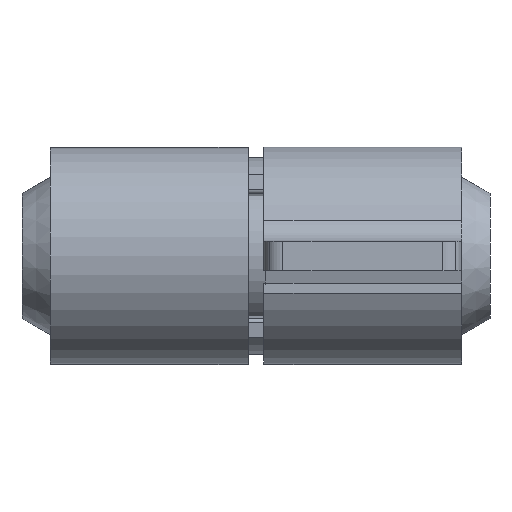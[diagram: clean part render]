
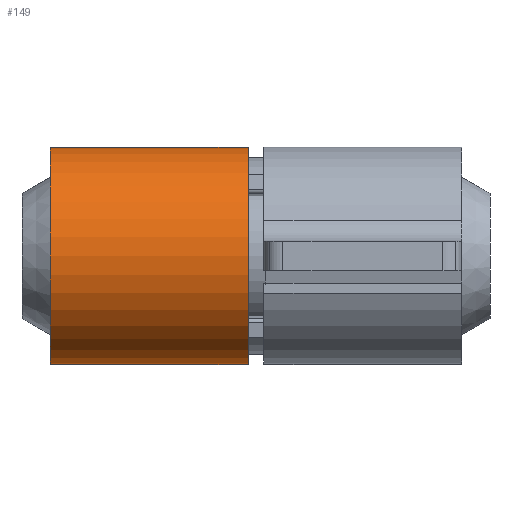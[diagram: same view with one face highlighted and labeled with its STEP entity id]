
A CAD part, front view. The second image highlights one B-rep face of the part: STEP entity #149.
In plain terms, the highlighted cylindrical face has radius 4.375 mm (diameter 8.75 mm), a partial arc.
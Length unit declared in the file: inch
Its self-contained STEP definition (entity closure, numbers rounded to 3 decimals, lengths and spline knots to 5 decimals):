
#149=ADVANCED_FACE('',(#343),#344,.T.);
#343=FACE_OUTER_BOUND('',#606,.T.);
#344=CYLINDRICAL_SURFACE('',#607,0.17224);
#606=EDGE_LOOP('',(#912,#913,#914,#915));
#607=AXIS2_PLACEMENT_3D('',#916,#917,#918);
#912=ORIENTED_EDGE('',*,*,#1568,.T.);
#913=ORIENTED_EDGE('',*,*,#1569,.F.);
#914=ORIENTED_EDGE('',*,*,#1570,.T.);
#915=ORIENTED_EDGE('',*,*,#1571,.F.);
#916=CARTESIAN_POINT('',(-6.24134,-4.,0.));
#917=DIRECTION('',(-1.0,0.,0.));
#918=DIRECTION('',(0.,0.,-1.0));
#1568=EDGE_CURVE('',#1890,#1891,#1892,.T.);
#1569=EDGE_CURVE('',#1893,#1891,#1894,.T.);
#1570=EDGE_CURVE('',#1893,#1895,#1896,.T.);
#1571=EDGE_CURVE('',#1890,#1895,#1897,.T.);
#1890=VERTEX_POINT('',#2311);
#1891=VERTEX_POINT('',#2312);
#1892=LINE('',#2313,#2314);
#1893=VERTEX_POINT('',#2315);
#1894=CIRCLE('',#2316,0.17224);
#1895=VERTEX_POINT('',#2317);
#1896=LINE('',#2318,#2319);
#1897=CIRCLE('',#2320,0.17224);
#2311=CARTESIAN_POINT('',(-6.24134,-4.,-0.17224));
#2312=CARTESIAN_POINT('',(-5.92884,-4.,-0.17224));
#2313=CARTESIAN_POINT('',(-6.24134,-4.,-0.17224));
#2314=VECTOR('',#2780,1.0);
#2315=CARTESIAN_POINT('',(-5.92884,-4.,0.17224));
#2316=AXIS2_PLACEMENT_3D('',#2781,#2782,#2783);
#2317=CARTESIAN_POINT('',(-6.24134,-4.,0.17224));
#2318=CARTESIAN_POINT('',(-6.24134,-4.,0.17224));
#2319=VECTOR('',#2784,1.0);
#2320=AXIS2_PLACEMENT_3D('',#2785,#2786,#2787);
#2780=DIRECTION('',(1.0,0.,0.));
#2781=CARTESIAN_POINT('',(-5.92884,-4.,0.));
#2782=DIRECTION('',(1.0,0.,0.));
#2783=DIRECTION('',(0.,0.,-1.0));
#2784=DIRECTION('',(-1.0,0.,0.));
#2785=CARTESIAN_POINT('',(-6.24134,-4.,0.));
#2786=DIRECTION('',(-1.0,0.,0.));
#2787=DIRECTION('',(0.,0.,-1.0));
